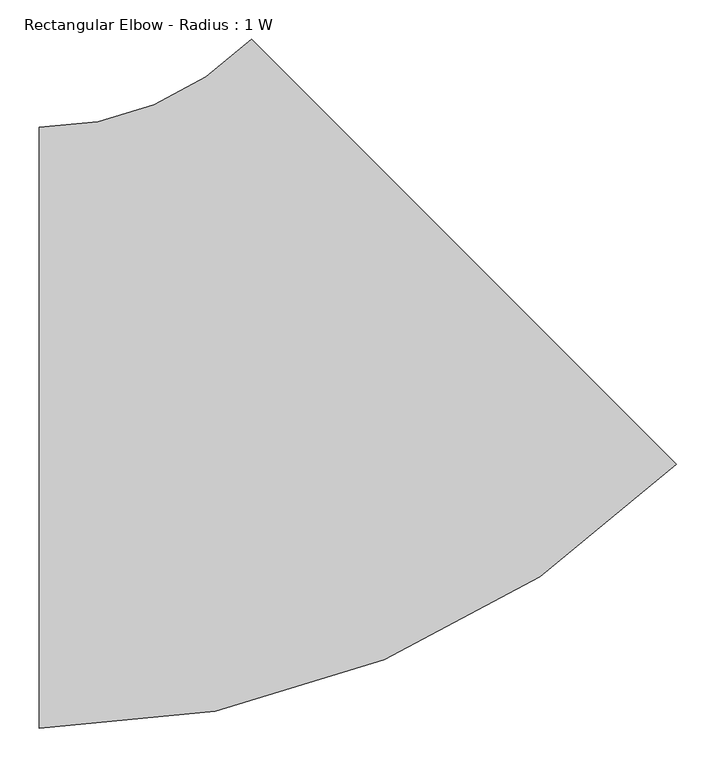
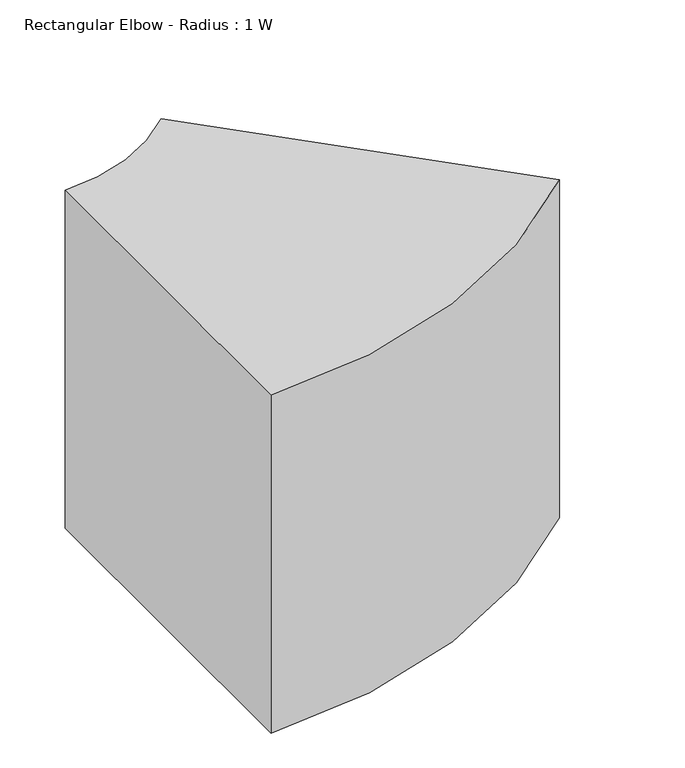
"""IFC4 building model written with IfcOpenShell, lengths in millimetres: duct fitting geometry, Rectangular Elbow - Radius : 1 W."""

from ifc_helpers import new_model, si_unit, point, frame, frame_2d, origin, place, context, project, spatial, polyline, circle_curve, trimmed, segment, composite_curve, outline, extrude, source, transform, mapped, element, save


def rectangular_elbow_radius_1_w_218a5dfe(model_context):
    return source(origin(), model_context, "Body", "SweptSolid", [
        extrude(outline(composite_curve([segment(trimmed(circle_curve(frame_2d((-315.6307345, 762.0)), 1143.0), [point((492.5923164, -46.2230509))], [point((-315.6307345, -381.0))], False, "CARTESIAN"), True, "CONTINUOUS"), segment(polyline([(-315.6307345, -381.0), (-315.6307345, 381.0)]), True, "CONTINUOUS"), segment(trimmed(circle_curve(frame_2d((-315.6307345, 762.0)), 381.0), [point((-315.6307345, 381.0))], [point((-46.2230509, 492.5923164))], True, "CARTESIAN"), True, "CONTINUOUS"), segment(polyline([(-46.2230509, 492.5923164), (492.5923164, -46.2230509)]), True, "CONTINUOUS")], self_intersect=False)), frame((0.0, 0.0, -381.0), z_axis=(0.0, 0.0, 1.0), x_axis=(1.0, 0.0, 0.0)), (0.0, 0.0, 1.0), 762.0),
    ])


if __name__ == "__main__":
    model = new_model("IFC4")
    model_context = context("Model", 3, world=origin())
    ifc_project = project(units=[si_unit("LENGTHUNIT", "METRE", prefix="MILLI")], contexts=[model_context])
    site = spatial("IfcSite", under=ifc_project)
    building = spatial("IfcBuilding", under=site)
    placement = place(None, origin())
    rectangular_elbow_radius_1_w_shape = rectangular_elbow_radius_1_w_218a5dfe(model_context)
    element("IfcDuctFitting", 1, ObjectType="Rectangular Elbow - Radius : 1 W", at=placement, inside=building, context=model_context, shape_type="MappedRepresentation", body=[
        mapped(rectangular_elbow_radius_1_w_shape, transform((0.0, 0.0, 0.0), x_axis=(1.0, 0.0, 0.0), y_axis=(0.0, 1.0, 0.0), z_axis=(0.0, 0.0, 1.0))),
    ])
    save(model, "model.ifc")
